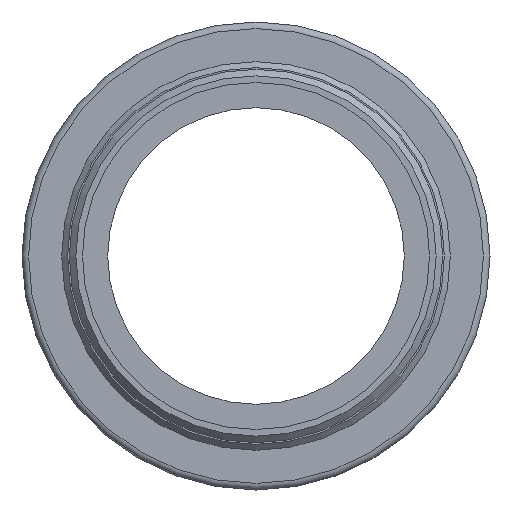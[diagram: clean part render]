
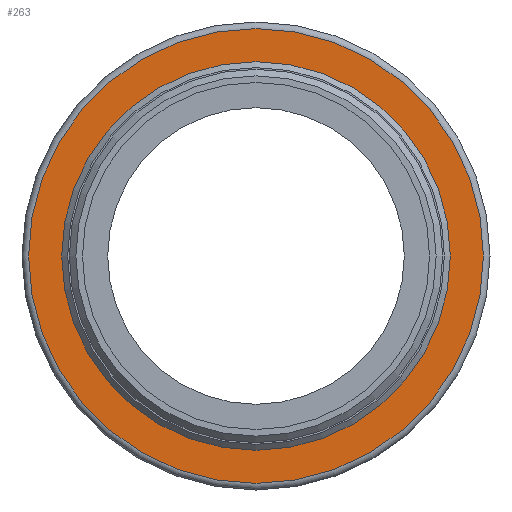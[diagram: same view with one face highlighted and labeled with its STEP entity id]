
A CAD part, front view. The second image highlights one B-rep face of the part: STEP entity #263.
In plain terms, the highlighted planar face has unit normal (0, -1, 0).
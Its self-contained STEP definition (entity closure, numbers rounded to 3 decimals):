
#84=ORIENTED_EDGE('',*,*,#111,.T.);
#85=ORIENTED_EDGE('',*,*,#110,.F.);
#110=EDGE_CURVE('',#131,#131,#152,.T.);
#111=EDGE_CURVE('',#132,#132,#153,.T.);
#131=VERTEX_POINT('',#499);
#132=VERTEX_POINT('',#502);
#152=CIRCLE('',#342,57.15);
#153=CIRCLE('',#344,69.);
#189=EDGE_LOOP('',(#84));
#190=EDGE_LOOP('',(#85));
#231=FACE_BOUND('',#189,.T.);
#232=FACE_BOUND('',#190,.T.);
#245=PLANE('',#343);
#263=ADVANCED_FACE('',(#231,#232),#245,.T.);
#342=AXIS2_PLACEMENT_3D('',#498,#426,#427);
#343=AXIS2_PLACEMENT_3D('',#500,#428,#429);
#344=AXIS2_PLACEMENT_3D('',#501,#430,#431);
#426=DIRECTION('',(0.,-1.,0.));
#427=DIRECTION('',(0.,0.,-1.));
#428=DIRECTION('',(0.,-1.,0.));
#429=DIRECTION('',(0.,0.,-1.));
#430=DIRECTION('',(0.,-1.,0.));
#431=DIRECTION('',(0.,0.,-1.));
#498=CARTESIAN_POINT('',(0.,0.,0.));
#499=CARTESIAN_POINT('',(0.,0.,-57.15));
#500=CARTESIAN_POINT('',(0.,0.,57.15));
#501=CARTESIAN_POINT('',(0.,0.,0.));
#502=CARTESIAN_POINT('',(0.,0.,-69.));
